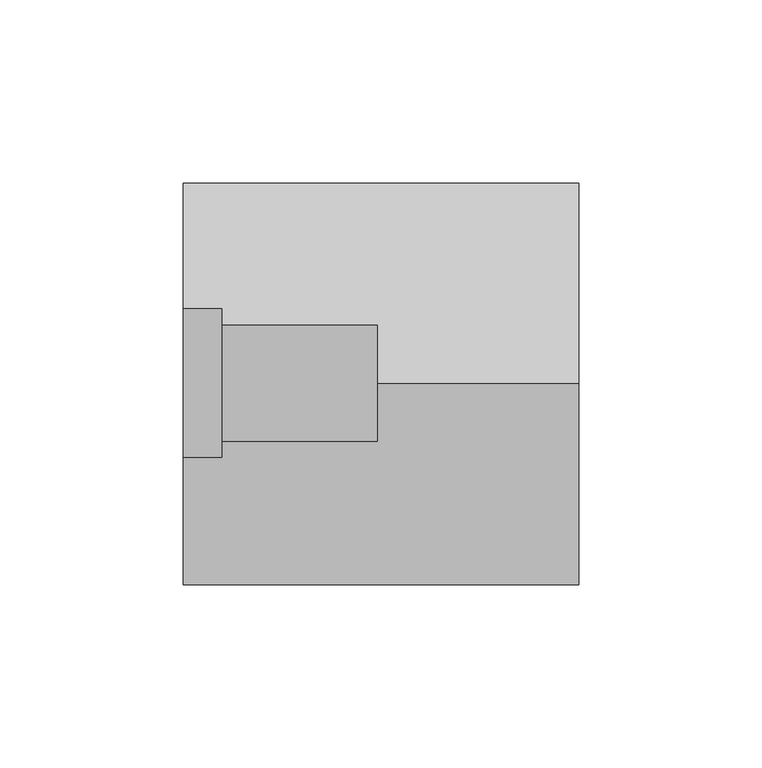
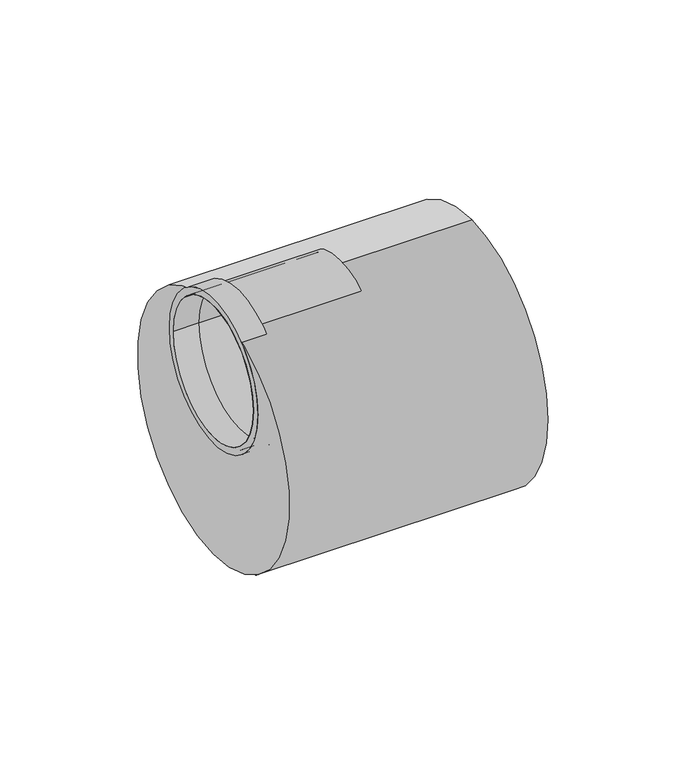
"""IFC4 building model written with IfcOpenShell, lengths in millimetres: pipe fitting geometry, Superdrain SKR-short reducer : Superdrain SKR-short reducer."""

from ifc_helpers import new_model, si_unit, point, frame, frame_2d, origin, place, context, project, spatial, polyline, circle_curve, trimmed, segment, composite_curve, outline, extrude, source, transform, mapped, element, save
from ifc_brep_helpers import plane_surface, cylinder_surface, revolved_surface, advanced_brep


def pipe_fitting_b621045b(model_context):
    return source(origin(), model_context, "Body", "SolidModel", [
        extrude(outline(composite_curve([segment(trimmed(circle_curve(frame_2d((0.0, 26.0)), 31.9725), [point((-31.9725, 26.0))], [point((31.9725, 26.0))], False, "CARTESIAN"), True, "CONTINUOUS"), segment(trimmed(circle_curve(frame_2d((0.0, 26.0)), 31.9725), [point((31.9725, 26.0))], [point((-31.9725, 26.0))], False, "CARTESIAN"), True, "CONTINUOUS")], self_intersect=False), holes=[composite_curve([segment(trimmed(circle_curve(frame_2d((0.0, 26.0)), 29.0), [point((29.0, 26.0))], [point((-29.0, 26.0))], True, "CARTESIAN"), True, "CONTINUOUS"), segment(trimmed(circle_curve(frame_2d((0.0, 26.0)), 29.0), [point((-29.0, 26.0))], [point((29.0, 26.0))], True, "CARTESIAN"), True, "CONTINUOUS")], self_intersect=False)]), frame((-46.5, 0.0, 0.0), z_axis=(1.0, 0.0, 0.0), x_axis=(0.0, 1.0, 0.0)), (0.0, 0.0, 1.0), 10.6),
        extrude(outline(composite_curve([segment(trimmed(circle_curve(frame_2d((0.0, 26.0)), 30.45), [point((-30.45, 26.0))], [point((30.45, 26.0))], False, "CARTESIAN"), True, "CONTINUOUS"), segment(trimmed(circle_curve(frame_2d((0.0, 26.0)), 30.45), [point((30.45, 26.0))], [point((-30.45, 26.0))], False, "CARTESIAN"), True, "CONTINUOUS")], self_intersect=False), holes=[composite_curve([segment(trimmed(circle_curve(frame_2d((0.0, 26.0)), 29.0), [point((29.0, 26.0))], [point((-29.0, 26.0))], True, "CARTESIAN"), True, "CONTINUOUS"), segment(trimmed(circle_curve(frame_2d((0.0, 26.0)), 29.0), [point((-29.0, 26.0))], [point((29.0, 26.0))], True, "CARTESIAN"), True, "CONTINUOUS")], self_intersect=False)]), frame((-46.5, 0.0, 0.0), z_axis=(1.0, 0.0, 0.0), x_axis=(0.0, 1.0, 0.0)), (0.0, 0.0, 1.0), 53.0),
        advanced_brep(
        [(-46.5, 0.0, 55.0), (-46.5, 0.0, -55.0), (-46.5, -29.0, 26.0), (-46.5, 29.0, 26.0), (61.5, 0.0, 55.0), (61.5, 0.0, -55.0), (6.5, 0.0, 55.0), (6.5, 29.0, 26.0), (6.5, -29.0, 26.0), (6.5, 0.0, 55.0)],
        [
            (0, 1, circle_curve(frame((-46.5, 0.0, 0.0), z_axis=(-1.0, 0.0, 0.0), x_axis=(0.0, 0.0, -1.0)), 55.0)),
            (1, 0, circle_curve(frame((-46.5, 0.0, 0.0), z_axis=(-1.0, 0.0, 0.0), x_axis=(0.0, 0.0, -1.0)), 55.0)),
            (0, 2, circle_curve(frame((-46.5, 0.0, 26.0), z_axis=(1.0, 0.0, 0.0), x_axis=(0.0, 1.0, 0.0)), 29.0)),
            (2, 3, circle_curve(frame((-46.5, 0.0, 26.0), z_axis=(1.0, 0.0, 0.0), x_axis=(0.0, 1.0, 0.0)), 29.0)),
            (3, 0, circle_curve(frame((-46.5, 0.0, 26.0), z_axis=(1.0, 0.0, 0.0), x_axis=(0.0, 1.0, 0.0)), 29.0)),
            (4, 5, circle_curve(frame((61.5, 0.0, 0.0), z_axis=(1.0, 0.0, 0.0), x_axis=(0.0, 0.0, -1.0)), 55.0)),
            (5, 4, circle_curve(frame((61.5, 0.0, 0.0), z_axis=(1.0, 0.0, 0.0), x_axis=(0.0, 0.0, -1.0)), 55.0)),
            (0, 6),
            (6, 4),
            (5, 1),
            (7, 8, circle_curve(frame((6.5, 0.0, 26.0), z_axis=(-1.0, 0.0, 0.0), x_axis=(0.0, 1.0, 0.0)), 29.0)),
            (8, 9, circle_curve(frame((6.5, 0.0, 26.0), z_axis=(-1.0, 0.0, 0.0), x_axis=(0.0, 1.0, 0.0)), 29.0)),
            (9, 7, circle_curve(frame((6.5, 0.0, 26.0), z_axis=(-1.0, 0.0, 0.0), x_axis=(0.0, 1.0, 0.0)), 29.0)),
            (3, 7),
            (8, 2),
        ],
        [
            plane_surface(frame((-46.5, 0.0, 0.0), z_axis=(-1.0, 0.0, 0.0), x_axis=(0.0, 1.0, 0.0))),
            plane_surface(frame((61.5, 0.0, 0.0), z_axis=(1.0, 0.0, 0.0), x_axis=(0.0, 1.0, 0.0))),
            cylinder_surface(frame((-46.5, 0.0, 0.0), z_axis=(-1.0, 0.0, 0.0), x_axis=(0.0, 0.0, -1.0)), 55.0),
            plane_surface(frame((6.5, 0.0, 0.0), z_axis=(-1.0, 0.0, 0.0), x_axis=(0.0, 0.0, 1.0))),
            revolved_surface(polyline([(-46.5, 29.0, 26.0), (6.5, 29.0, 26.0)]), (-46.5, 0.0, 26.0), (-1.0, 0.0, 0.0)),
        ],
        [
            (0, [[1, 2, 3, 4, 5]]),
            (1, [[6, 7]]),
            (2, [[-1, 8, 9, -7, 10]]),
            (2, [[-2, -10, -6, -9, -8]]),
            (3, [[11, 12, 13]]),
            (4, [[14, -13, -12, 15, -3, -5]]),
            (4, [[-11, -14, -4, -15]]),
        ],
    ),
    ])


if __name__ == "__main__":
    model = new_model("IFC4")
    model_context = context("Model", 3, world=origin())
    ifc_project = project(units=[si_unit("LENGTHUNIT", "METRE", prefix="MILLI")], contexts=[model_context])
    site = spatial("IfcSite", under=ifc_project)
    building = spatial("IfcBuilding", under=site)
    placement = place(None, origin())
    pipe_fitting_shape = pipe_fitting_b621045b(model_context)
    element("IfcPipeFitting", 1, ObjectType="Superdrain SKR-short reducer : Superdrain SKR-short reducer", at=placement, inside=building, context=model_context, shape_type="MappedRepresentation", body=[
        mapped(pipe_fitting_shape, transform((0.0, 0.0, 0.0), x_axis=(1.0, 0.0, 0.0), y_axis=(0.0, 1.0, 0.0), z_axis=(0.0, 0.0, 1.0))),
    ])
    save(model, "model.ifc")
